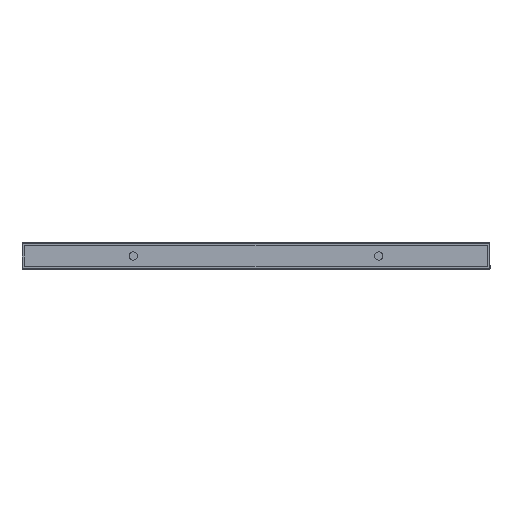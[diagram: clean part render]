
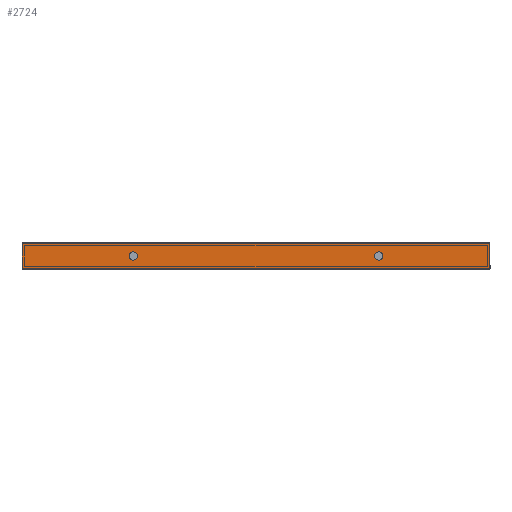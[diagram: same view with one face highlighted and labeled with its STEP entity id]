
A CAD part, front view. The second image highlights one B-rep face of the part: STEP entity #2724.
In plain terms, the highlighted planar face has unit normal (0, -1, 0) as drawn and (-1, 0, 0) by its records, which use the part's own axes.
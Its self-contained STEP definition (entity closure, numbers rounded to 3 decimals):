
#63 = CARTESIAN_POINT ( 'NONE',  ( -8., -75., -2.5 ) ) ;
#81 = CARTESIAN_POINT ( 'NONE',  ( -8., 75., -2.5 ) ) ;
#86 = DIRECTION ( 'NONE',  ( 1., 0., 0. ) ) ;
#92 = AXIS2_PLACEMENT_3D ( 'NONE', #3368, #3066, #3574 ) ;
#94 = ORIENTED_EDGE ( 'NONE', *, *, #163, .F. ) ;
#96 = CARTESIAN_POINT ( 'NONE',  ( -8., 75., 0. ) ) ;
#102 = VERTEX_POINT ( 'NONE', #63 ) ;
#109 = EDGE_CURVE ( 'NONE', #102, #1947, #3314, .T. ) ;
#163 = EDGE_CURVE ( 'NONE', #1947, #102, #3717, .T. ) ;
#171 = LINE ( 'NONE', #3127, #1242 ) ;
#232 = EDGE_CURVE ( 'NONE', #1202, #2189, #1193, .T. ) ;
#277 = VERTEX_POINT ( 'NONE', #2260 ) ;
#287 = VECTOR ( 'NONE', #3104, 1000. ) ;
#335 = CARTESIAN_POINT ( 'NONE',  ( -8., -143., -7.5 ) ) ;
#341 = EDGE_CURVE ( 'NONE', #3165, #277, #2309, .T. ) ;
#522 = ORIENTED_EDGE ( 'NONE', *, *, #341, .F. ) ;
#556 = CIRCLE ( 'NONE', #3272, 2.5 ) ;
#833 = AXIS2_PLACEMENT_3D ( 'NONE', #96, #2473, #1583 ) ;
#839 = ORIENTED_EDGE ( 'NONE', *, *, #109, .F. ) ;
#970 = ORIENTED_EDGE ( 'NONE', *, *, #1034, .T. ) ;
#972 = DIRECTION ( 'NONE',  ( 0., 0., 1. ) ) ;
#997 = PLANE ( 'NONE',  #2701 ) ;
#1034 = EDGE_CURVE ( 'NONE', #3399, #2061, #171, .T. ) ;
#1092 = DIRECTION ( 'NONE',  ( 0., 0., 1. ) ) ;
#1130 = EDGE_CURVE ( 'NONE', #3399, #1202, #1672, .T. ) ;
#1193 = LINE ( 'NONE', #2406, #3141 ) ;
#1202 = VERTEX_POINT ( 'NONE', #3806 ) ;
#1242 = VECTOR ( 'NONE', #2204, 1000. ) ;
#1406 = DIRECTION ( 'NONE',  ( -1., 0., 0. ) ) ;
#1583 = DIRECTION ( 'NONE',  ( 0., 0., 1. ) ) ;
#1672 = LINE ( 'NONE', #3733, #3203 ) ;
#1674 = CARTESIAN_POINT ( 'NONE',  ( -8., -143., 7.5 ) ) ;
#1769 = EDGE_CURVE ( 'NONE', #2061, #2189, #3701, .T. ) ;
#1947 = VERTEX_POINT ( 'NONE', #3536 ) ;
#2061 = VERTEX_POINT ( 'NONE', #335 ) ;
#2189 = VERTEX_POINT ( 'NONE', #1674 ) ;
#2204 = DIRECTION ( 'NONE',  ( 0., -1., 0. ) ) ;
#2215 = FACE_BOUND ( 'NONE', #3055, .T. ) ;
#2260 = CARTESIAN_POINT ( 'NONE',  ( -8., 75., 2.5 ) ) ;
#2289 = FACE_OUTER_BOUND ( 'NONE', #3311, .T. ) ;
#2309 = CIRCLE ( 'NONE', #833, 2.5 ) ;
#2322 = EDGE_LOOP ( 'NONE', ( #2621, #522 ) ) ;
#2406 = CARTESIAN_POINT ( 'NONE',  ( -8., 143., 7.5 ) ) ;
#2460 = CARTESIAN_POINT ( 'NONE',  ( -8., 143., -7.5 ) ) ;
#2473 = DIRECTION ( 'NONE',  ( -1., 0., 0. ) ) ;
#2621 = ORIENTED_EDGE ( 'NONE', *, *, #2878, .F. ) ;
#2701 = AXIS2_PLACEMENT_3D ( 'NONE', #3418, #86, #2875 ) ;
#2724 = ADVANCED_FACE ( 'NONE', ( #2844, #2215, #2289 ), #997, .F. ) ;
#2800 = DIRECTION ( 'NONE',  ( -1., 0., 0. ) ) ;
#2844 = FACE_BOUND ( 'NONE', #2322, .T. ) ;
#2870 = DIRECTION ( 'NONE',  ( 0., 0., 1. ) ) ;
#2875 = DIRECTION ( 'NONE',  ( 0., 0., -1. ) ) ;
#2878 = EDGE_CURVE ( 'NONE', #277, #3165, #556, .T. ) ;
#3055 = EDGE_LOOP ( 'NONE', ( #94, #839 ) ) ;
#3066 = DIRECTION ( 'NONE',  ( -1., 0., 0. ) ) ;
#3092 = ORIENTED_EDGE ( 'NONE', *, *, #232, .F. ) ;
#3104 = DIRECTION ( 'NONE',  ( 0., 0., 1. ) ) ;
#3127 = CARTESIAN_POINT ( 'NONE',  ( -8., 143., -7.5 ) ) ;
#3141 = VECTOR ( 'NONE', #3615, 1000. ) ;
#3165 = VERTEX_POINT ( 'NONE', #81 ) ;
#3203 = VECTOR ( 'NONE', #2870, 1000. ) ;
#3272 = AXIS2_PLACEMENT_3D ( 'NONE', #3513, #1406, #1092 ) ;
#3311 = EDGE_LOOP ( 'NONE', ( #3546, #3092, #3825, #970 ) ) ;
#3314 = CIRCLE ( 'NONE', #3830, 2.5 ) ;
#3368 = CARTESIAN_POINT ( 'NONE',  ( -8., -75., 0. ) ) ;
#3390 = CARTESIAN_POINT ( 'NONE',  ( -8., -75., 0. ) ) ;
#3399 = VERTEX_POINT ( 'NONE', #2460 ) ;
#3418 = CARTESIAN_POINT ( 'NONE',  ( -8., 143., -7.5 ) ) ;
#3425 = CARTESIAN_POINT ( 'NONE',  ( -8., -143., -7.5 ) ) ;
#3513 = CARTESIAN_POINT ( 'NONE',  ( -8., 75., 0. ) ) ;
#3536 = CARTESIAN_POINT ( 'NONE',  ( -8., -75., 2.5 ) ) ;
#3546 = ORIENTED_EDGE ( 'NONE', *, *, #1769, .T. ) ;
#3574 = DIRECTION ( 'NONE',  ( 0., 0., 1. ) ) ;
#3615 = DIRECTION ( 'NONE',  ( 0., -1., 0. ) ) ;
#3701 = LINE ( 'NONE', #3425, #287 ) ;
#3717 = CIRCLE ( 'NONE', #92, 2.5 ) ;
#3733 = CARTESIAN_POINT ( 'NONE',  ( -8., 143., -7.5 ) ) ;
#3806 = CARTESIAN_POINT ( 'NONE',  ( -8., 143., 7.5 ) ) ;
#3825 = ORIENTED_EDGE ( 'NONE', *, *, #1130, .F. ) ;
#3830 = AXIS2_PLACEMENT_3D ( 'NONE', #3390, #2800, #972 ) ;
